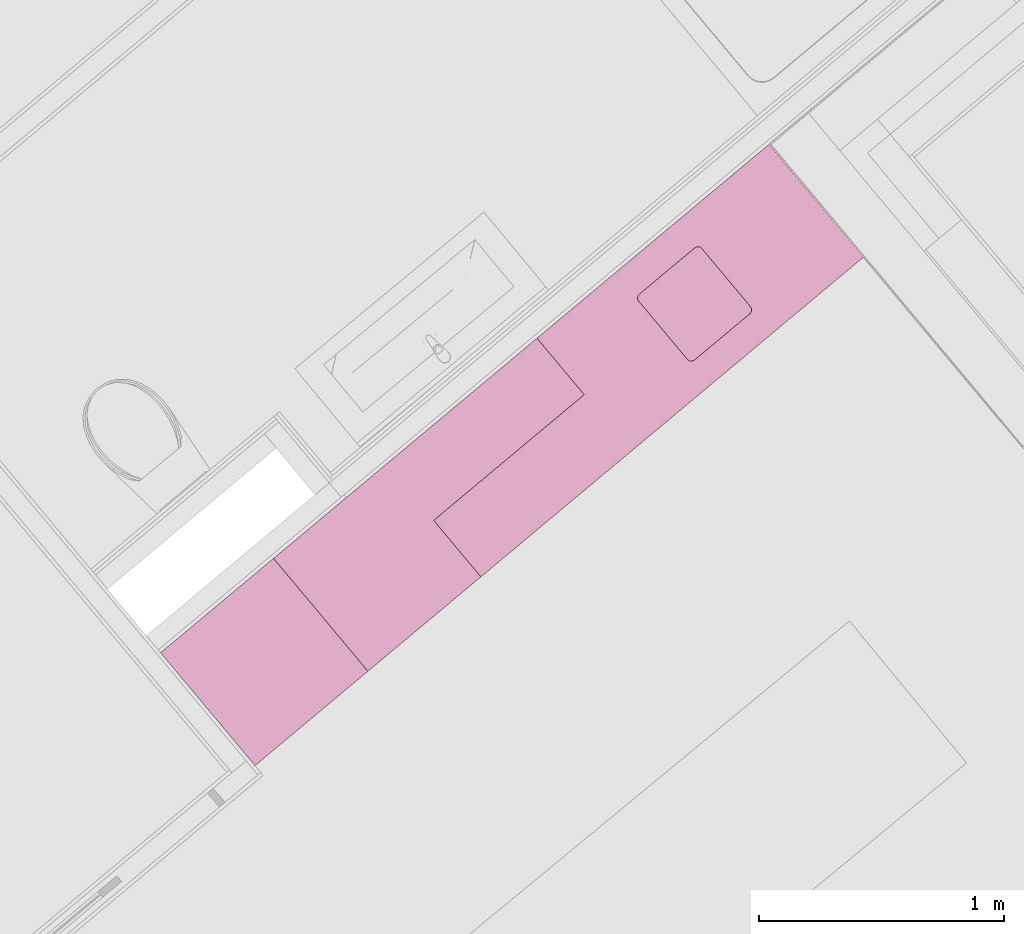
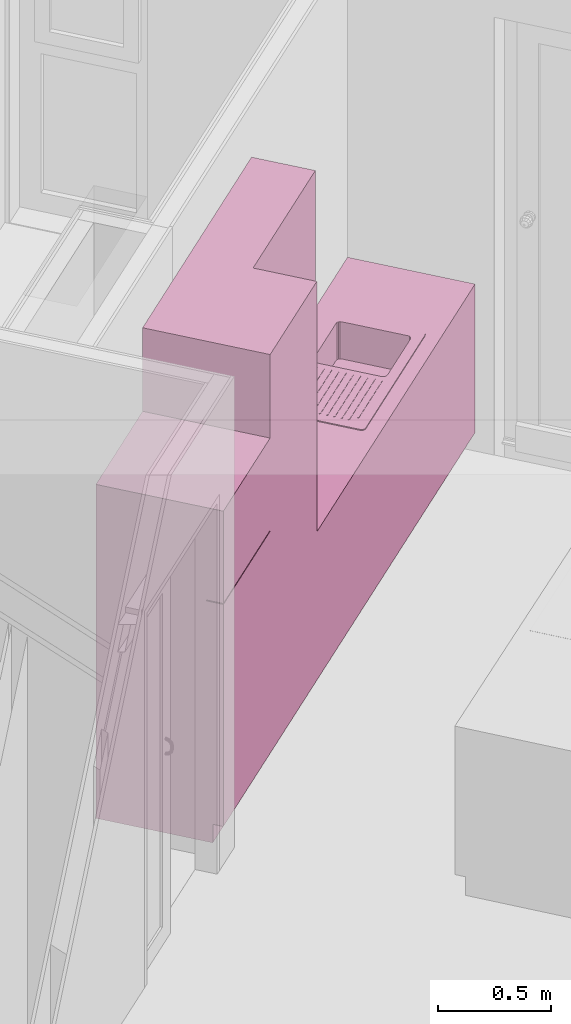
# One storey, part 52 of 53: 1 furniture element.
"""IFC4 building model written with IfcOpenShell, lengths in metres."""

from ifc_helpers import new_model, entity, si_unit, converted_unit, derived_unit, direction, frame, origin_with_axes, place, context, subcontext, project, spatial, polygons, source, transform, mapped, type_object, element, save


model = new_model("IFC4")

# Units and contexts
model_context = context("Model", 3, precision=1e-05, world=origin_with_axes(), true_north=direction((0.0, 1.0)))
body_context = subcontext(model_context, "Body", "Model", "MODEL_VIEW")
ifc_project = project(units=[si_unit("LENGTHUNIT", "METRE"), si_unit("AREAUNIT", "SQUARE_METRE"), si_unit("VOLUMEUNIT", "CUBIC_METRE"), converted_unit("PLANEANGLEUNIT", "DEGREE", entity("IfcPlaneAngleMeasure", 0.0174532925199), si_unit("PLANEANGLEUNIT", "RADIAN"), dimensions=[0, 0, 0, 0, 0, 0, 0]), converted_unit("TIMEUNIT", "Year", entity("IfcTimeMeasure", 31556926.0), si_unit("TIMEUNIT", "SECOND"), dimensions=[0, 0, 1, 0, 0, 0, 0]), si_unit("MASSUNIT", "GRAM", prefix="KILO"), si_unit("THERMODYNAMICTEMPERATUREUNIT", "DEGREE_CELSIUS"), si_unit("LUMINOUSINTENSITYUNIT", "LUMEN"), si_unit("ENERGYUNIT", "JOULE", prefix="MEGA"), derived_unit("THERMALCONDUCTANCEUNIT", [(si_unit("POWERUNIT", "WATT"), 1), (si_unit("LENGTHUNIT", "METRE"), -1), (si_unit("THERMODYNAMICTEMPERATUREUNIT", "KELVIN"), -1)]), derived_unit("SPECIFICHEATCAPACITYUNIT", [(si_unit("ENERGYUNIT", "JOULE"), 1), (si_unit("MASSUNIT", "GRAM", prefix="KILO"), -1), (si_unit("THERMODYNAMICTEMPERATUREUNIT", "KELVIN"), -1)]), derived_unit("MASSDENSITYUNIT", [(si_unit("MASSUNIT", "GRAM", prefix="KILO"), 1), (si_unit("VOLUMEUNIT", "CUBIC_METRE"), -1)])], contexts=[model_context])

# Site, building, storey, space
site_placement = place(None, frame((-0.00153261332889, -0.00661245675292, 0.0), z_axis=(0.0, 0.0, 1.0), x_axis=(1.0, 0.0, 0.0)))
site = spatial("IfcSite", under=ifc_project, at=site_placement, Name="Gelände", CompositionType="ELEMENT")
building_placement = place(site_placement, origin_with_axes())
building = spatial("IfcBuilding", under=site, at=building_placement, Name="Gebäude", CompositionType="ELEMENT")
storey_placement = place(building_placement, frame((0.0, 0.0, 2.74), z_axis=(0.0, 0.0, 1.0), x_axis=(1.0, 0.0, 0.0)))
storey = spatial("IfcBuildingStorey", under=building, at=storey_placement, Name="OG1", CompositionType="ELEMENT", Elevation=2.74)
space_placement = place(storey_placement, frame((12.8063322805, 20.3315828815, 0.22), z_axis=(0.0, 0.0, 1.0), x_axis=(-0.641209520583, 0.767365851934, 0.0)))
space = spatial("IfcSpace", under=storey, at=space_placement, CompositionType="ELEMENT", PredefinedType="NOTDEFINED")

# Furniture
furniture_type = type_object("IfcFurnitureType", Name="Konzeptküche 26", AssemblyPlace="NOTDEFINED", PredefinedType="NOTDEFINED")
shared_shape = source(origin_with_axes(), body_context, "Body", "Tessellation", [
    polygons([(-0.968323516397, 0.0, 0.0), (-0.968323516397, 0.0, 0.1), (-3.0, 0.0, 0.1), (-3.0, 0.0, 0.0), (-0.968323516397, 0.55, 0.0), (-0.968323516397, 0.55, 0.1), (-3.0, 0.55, 0.1), (-3.0, 0.55, 0.0)], [[[1, 2, 3, 4]], [[5, 6, 2, 1]], [[2, 6, 7, 3]], [[4, 3, 7, 8]], [[1, 4, 8, 5]], [[8, 7, 6, 5]]], closed=True),
    polygons([(-0.968323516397, 0.6, 0.85), (-0.968323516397, 0.0, 0.85), (-3.0, 0.0, 0.85), (-3.0, 0.6, 0.85), (-1.79253770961, 0.055, 0.85), (-1.79253770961, 0.505, 0.85), (-2.54253770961, 0.505, 0.85), (-2.54253770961, 0.055, 0.85), (-0.968323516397, 0.6, 0.9), (-0.968323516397, 0.0, 0.9), (-3.0, 0.0, 0.9), (-3.0, 0.6, 0.9), (-1.79253770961, 0.505, 0.9), (-1.79253770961, 0.055, 0.9), (-2.54253770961, 0.505, 0.9), (-2.54253770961, 0.055, 0.9)], [[[1, 2, 3, 4], [5, 6, 7, 8]], [[2, 1, 9, 10]], [[3, 2, 10, 11]], [[4, 3, 11, 12]], [[1, 4, 12, 9]], [[13, 6, 5, 14]], [[15, 7, 6, 13]], [[16, 8, 7, 15]], [[14, 5, 8, 16]], [[11, 10, 9, 12], [14, 16, 15, 13]]], closed=True),
    polygons([(-0.968323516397, 0.6, 0.1), (-0.968323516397, 0.0, 0.1), (-3.0, 0.0, 0.1), (-3.0, 0.6, 0.1), (-1.79253770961, 0.055, 0.1), (-1.79253770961, 0.505, 0.1), (-2.54253770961, 0.505, 0.1), (-2.54253770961, 0.055, 0.1), (-0.968323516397, 0.6, 0.85), (-0.968323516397, 0.0, 0.85), (-3.0, 0.0, 0.85), (-3.0, 0.6, 0.85), (-1.79253770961, 0.505, 0.85), (-1.79253770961, 0.055, 0.85), (-2.54253770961, 0.505, 0.85), (-2.54253770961, 0.055, 0.85)], [[[1, 2, 3, 4], [5, 6, 7, 8]], [[2, 1, 9, 10]], [[3, 2, 10, 11]], [[4, 3, 11, 12]], [[1, 4, 12, 9]], [[13, 6, 5, 14]], [[15, 7, 6, 13]], [[16, 8, 7, 15]], [[14, 5, 8, 16]], [[11, 10, 9, 12], [14, 16, 15, 13]]], closed=True),
    polygons([(-0.968323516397, 0.0, 1.5), (-0.968323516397, 0.0, 2.25), (-1.76753770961, 0.0, 2.25), (-1.76753770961, 0.0, 1.5), (-0.968323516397, 0.3, 1.5), (-0.968323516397, 0.3, 2.25), (-1.76753770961, 0.3, 2.25), (-1.76753770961, 0.3, 1.5)], [[[1, 2, 3, 4]], [[5, 6, 2, 1]], [[2, 6, 7, 3]], [[4, 3, 7, 8]], [[1, 4, 8, 5]], [[8, 7, 6, 5]]], closed=True),
    polygons([(-0.368323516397, 0.52, 0.0), (-0.368323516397, 0.52, 0.1), (-0.368323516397, 0.55, 0.1), (-0.368323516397, 0.55, 0.0), (0.231676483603, 0.52, 0.0), (0.231676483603, 0.52, 0.1), (0.231676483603, 0.55, 0.1), (0.231676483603, 0.55, 0.0)], [[[1, 2, 3, 4]], [[5, 6, 2, 1]], [[2, 6, 7, 3]], [[4, 3, 7, 8]], [[1, 4, 8, 5]], [[8, 7, 6, 5]]], closed=True),
    polygons([(-0.368323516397, 0.52, 0.0), (-0.368323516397, 0.52, 1.8), (0.231676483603, 0.52, 1.8), (0.231676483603, 0.52, 0.0), (-0.368323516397, 0.0, 0.0), (-0.368323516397, 0.0, 1.8), (0.231676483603, 0.0, 1.8), (0.231676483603, 0.0, 0.0)], [[[1, 2, 3, 4]], [[5, 6, 2, 1]], [[2, 6, 7, 3]], [[4, 3, 7, 8]], [[1, 4, 8, 5]], [[8, 7, 6, 5]]], closed=True),
    polygons([(-0.368323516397, 0.5199, 0.1), (-0.368323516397, 0.5199, 1.2975), (-0.368323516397, 0.6, 1.2975), (-0.368323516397, 0.6, 0.1), (0.231676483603, 0.5199, 0.1), (0.231676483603, 0.5199, 1.2975), (0.231676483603, 0.6, 1.2975), (0.231676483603, 0.6, 0.1)], [[[1, 2, 3, 4]], [[5, 6, 2, 1]], [[2, 6, 7, 3]], [[4, 3, 7, 8]], [[1, 4, 8, 5]], [[8, 7, 6, 5]]], closed=True),
    polygons([(-0.368323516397, 0.5199, 1.3025), (-0.368323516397, 0.5199, 1.8), (-0.368323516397, 0.6, 1.8), (-0.368323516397, 0.6, 1.3025), (0.231676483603, 0.5199, 1.3025), (0.231676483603, 0.5199, 1.8), (0.231676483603, 0.6, 1.8), (0.231676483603, 0.6, 1.3025)], [[[1, 2, 3, 4]], [[5, 6, 2, 1]], [[2, 6, 7, 3]], [[4, 3, 7, 8]], [[1, 4, 8, 5]], [[8, 7, 6, 5]]], closed=True),
    polygons([(-2.49753770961, 0.48, 0.705), (-2.49753770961, 0.48, 0.9), (-2.20253770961, 0.48, 0.9), (-2.20253770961, 0.48, 0.705), (-2.50519137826, 0.47847759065, 0.705), (-2.50519137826, 0.47847759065, 0.9), (-2.19488404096, 0.47847759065, 0.9), (-2.19488404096, 0.47847759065, 0.705), (-2.18839557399, 0.474142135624, 0.705), (-2.18406011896, 0.467653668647, 0.705), (-2.18253770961, 0.46, 0.705), (-2.18253770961, 0.15, 0.705), (-2.18406011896, 0.142346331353, 0.705), (-2.18839557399, 0.135857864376, 0.705), (-2.19488404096, 0.13152240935, 0.705), (-2.20253770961, 0.13, 0.705), (-2.49753770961, 0.13, 0.705), (-2.50519137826, 0.13152240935, 0.705), (-2.51167984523, 0.135857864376, 0.705), (-2.51601530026, 0.142346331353, 0.705), (-2.51753770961, 0.15, 0.705), (-2.51753770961, 0.46, 0.705), (-2.51601530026, 0.467653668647, 0.705), (-2.51167984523, 0.474142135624, 0.705), (-2.51167984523, 0.474142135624, 0.9), (-2.18839557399, 0.474142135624, 0.9), (-2.18406011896, 0.467653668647, 0.9), (-2.18253770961, 0.46, 0.9), (-2.18253770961, 0.15, 0.9), (-2.18406011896, 0.142346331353, 0.9), (-2.18839557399, 0.135857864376, 0.9), (-2.19488404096, 0.13152240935, 0.9), (-2.20253770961, 0.13, 0.9), (-2.49753770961, 0.13, 0.9), (-2.50519137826, 0.13152240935, 0.9), (-2.51167984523, 0.135857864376, 0.9), (-2.51601530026, 0.142346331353, 0.9), (-2.51753770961, 0.15, 0.9), (-2.51753770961, 0.46, 0.9), (-2.51601530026, 0.467653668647, 0.9)], [[[1, 2, 3, 4]], [[5, 6, 2, 1]], [[4, 3, 7, 8]], [[1, 4, 8, 9, 10, 11, 12, 13, 14, 15, 16, 17, 18, 19, 20, 21, 22, 23, 24, 5]], [[24, 25, 6, 5]], [[8, 7, 26, 9]], [[9, 26, 27, 10]], [[10, 27, 28, 11]], [[11, 28, 29, 12]], [[12, 29, 30, 13]], [[13, 30, 31, 14]], [[14, 31, 32, 15]], [[15, 32, 33, 16]], [[16, 33, 34, 17]], [[17, 34, 35, 18]], [[18, 35, 36, 19]], [[19, 36, 37, 20]], [[20, 37, 38, 21]], [[21, 38, 39, 22]], [[22, 39, 40, 23]], [[23, 40, 25, 24]]], closed=False),
    polygons([(-2.54753770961, 0.53, 0.9), (-2.54753770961, 0.53, 0.905), (-1.78753770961, 0.53, 0.905), (-1.78753770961, 0.53, 0.9), (-2.55519137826, 0.52847759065, 0.9), (-2.55519137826, 0.52847759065, 0.905), (-2.56167984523, 0.524142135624, 0.905), (-2.56601530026, 0.517653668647, 0.905), (-2.56753770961, 0.51, 0.905), (-2.56753770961, 0.05, 0.905), (-2.56601530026, 0.0423463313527, 0.905), (-2.56167984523, 0.0358578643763, 0.905), (-2.55519137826, 0.0315224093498, 0.905), (-2.54753770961, 0.03, 0.905), (-1.78753770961, 0.03, 0.905), (-1.77988404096, 0.0315224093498, 0.905), (-1.77339557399, 0.0358578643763, 0.905), (-1.76906011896, 0.0423463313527, 0.905), (-1.76753770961, 0.05, 0.905), (-1.76753770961, 0.51, 0.905), (-1.76906011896, 0.517653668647, 0.905), (-1.77339557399, 0.524142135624, 0.905), (-1.77988404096, 0.52847759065, 0.905), (-2.49753770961, 0.48, 0.905), (-2.20253770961, 0.48, 0.905), (-2.19488404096, 0.47847759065, 0.905), (-2.18839557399, 0.474142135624, 0.905), (-2.18406011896, 0.467653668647, 0.905), (-2.18253770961, 0.46, 0.905), (-2.18253770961, 0.15, 0.905), (-2.18406011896, 0.142346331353, 0.905), (-2.18839557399, 0.135857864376, 0.905), (-2.19488404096, 0.13152240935, 0.905), (-2.20253770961, 0.13, 0.905), (-2.49753770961, 0.13, 0.905), (-2.50519137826, 0.13152240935, 0.905), (-2.51167984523, 0.135857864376, 0.905), (-2.51601530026, 0.142346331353, 0.905), (-2.51753770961, 0.15, 0.905), (-2.51753770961, 0.46, 0.905), (-2.51601530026, 0.467653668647, 0.905), (-2.51167984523, 0.474142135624, 0.905), (-2.50519137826, 0.47847759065, 0.905), (-1.77988404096, 0.52847759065, 0.9), (-1.77339557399, 0.524142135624, 0.9), (-1.76906011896, 0.517653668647, 0.9), (-1.76753770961, 0.51, 0.9), (-1.76753770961, 0.05, 0.9), (-1.76906011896, 0.0423463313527, 0.9), (-1.77339557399, 0.0358578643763, 0.9), (-1.77988404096, 0.0315224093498, 0.9), (-1.78753770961, 0.03, 0.9), (-2.54753770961, 0.03, 0.9), (-2.55519137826, 0.0315224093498, 0.9), (-2.56167984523, 0.0358578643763, 0.9), (-2.56601530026, 0.0423463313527, 0.9), (-2.56753770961, 0.05, 0.9), (-2.56753770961, 0.51, 0.9), (-2.56601530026, 0.517653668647, 0.9), (-2.56167984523, 0.524142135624, 0.9), (-2.49753770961, 0.48, 0.9), (-2.50519137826, 0.47847759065, 0.9), (-2.51167984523, 0.474142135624, 0.9), (-2.51601530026, 0.467653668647, 0.9), (-2.51753770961, 0.46, 0.9), (-2.51753770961, 0.15, 0.9), (-2.51601530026, 0.142346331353, 0.9), (-2.51167984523, 0.135857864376, 0.9), (-2.50519137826, 0.13152240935, 0.9), (-2.49753770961, 0.13, 0.9), (-2.20253770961, 0.13, 0.9), (-2.19488404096, 0.13152240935, 0.9), (-2.18839557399, 0.135857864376, 0.9), (-2.18406011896, 0.142346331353, 0.9), (-2.18253770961, 0.15, 0.9), (-2.18253770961, 0.46, 0.9), (-2.18406011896, 0.467653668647, 0.9), (-2.18839557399, 0.474142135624, 0.9), (-2.19488404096, 0.47847759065, 0.9), (-2.20253770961, 0.48, 0.9)], [[[1, 2, 3, 4]], [[5, 6, 2, 1]], [[2, 6, 7, 8, 9, 10, 11, 12, 13, 14, 15, 16, 17, 18, 19, 20, 21, 22, 23, 3], [24, 25, 26, 27, 28, 29, 30, 31, 32, 33, 34, 35, 36, 37, 38, 39, 40, 41, 42, 43]], [[4, 3, 23, 44]], [[1, 4, 44, 45, 46, 47, 48, 49, 50, 51, 52, 53, 54, 55, 56, 57, 58, 59, 60, 5], [61, 62, 63, 64, 65, 66, 67, 68, 69, 70, 71, 72, 73, 74, 75, 76, 77, 78, 79, 80]], [[60, 7, 6, 5]], [[59, 8, 7, 60]], [[58, 9, 8, 59]], [[57, 10, 9, 58]], [[56, 11, 10, 57]], [[55, 12, 11, 56]], [[54, 13, 12, 55]], [[53, 14, 13, 54]], [[52, 15, 14, 53]], [[51, 16, 15, 52]], [[50, 17, 16, 51]], [[49, 18, 17, 50]], [[48, 19, 18, 49]], [[47, 20, 19, 48]], [[46, 21, 20, 47]], [[45, 22, 21, 46]], [[44, 23, 22, 45]], [[80, 25, 24, 61]], [[79, 26, 25, 80]], [[78, 27, 26, 79]], [[77, 28, 27, 78]], [[76, 29, 28, 77]], [[75, 30, 29, 76]], [[74, 31, 30, 75]], [[73, 32, 31, 74]], [[72, 33, 32, 73]], [[71, 34, 33, 72]], [[70, 35, 34, 71]], [[69, 36, 35, 70]], [[68, 37, 36, 69]], [[67, 38, 37, 68]], [[66, 39, 38, 67]], [[65, 40, 39, 66]], [[64, 41, 40, 65]], [[63, 42, 41, 64]], [[62, 43, 42, 63]], [[61, 24, 43, 62]]], closed=True),
    polygons([(-2.15253770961, 0.475, 0.905), (-2.15253770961, 0.475, 0.907), (-1.84753770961, 0.475, 0.907), (-1.84753770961, 0.475, 0.905), (-2.15253770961, 0.47, 0.905), (-2.15253770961, 0.47, 0.907), (-1.84753770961, 0.47, 0.907), (-1.84753770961, 0.47, 0.905)], [[[1, 2, 3, 4]], [[5, 6, 2, 1]], [[2, 6, 7, 3]], [[4, 3, 7, 8]], [[1, 4, 8, 5]], [[8, 7, 6, 5]]], closed=True),
    polygons([(-2.15253770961, 0.441, 0.905), (-2.15253770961, 0.441, 0.907), (-1.81753770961, 0.441, 0.907), (-1.81753770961, 0.441, 0.905), (-2.15253770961, 0.436, 0.905), (-2.15253770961, 0.436, 0.907), (-1.81753770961, 0.436, 0.907), (-1.81753770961, 0.436, 0.905)], [[[1, 2, 3, 4]], [[5, 6, 2, 1]], [[2, 6, 7, 3]], [[4, 3, 7, 8]], [[1, 4, 8, 5]], [[8, 7, 6, 5]]], closed=True),
    polygons([(-2.15253770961, 0.407, 0.905), (-2.15253770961, 0.407, 0.907), (-1.81753770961, 0.407, 0.907), (-1.81753770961, 0.407, 0.905), (-2.15253770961, 0.402, 0.905), (-2.15253770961, 0.402, 0.907), (-1.81753770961, 0.402, 0.907), (-1.81753770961, 0.402, 0.905)], [[[1, 2, 3, 4]], [[5, 6, 2, 1]], [[2, 6, 7, 3]], [[4, 3, 7, 8]], [[1, 4, 8, 5]], [[8, 7, 6, 5]]], closed=True),
    polygons([(-2.15253770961, 0.373, 0.905), (-2.15253770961, 0.373, 0.907), (-1.81753770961, 0.373, 0.907), (-1.81753770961, 0.373, 0.905), (-2.15253770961, 0.368, 0.905), (-2.15253770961, 0.368, 0.907), (-1.81753770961, 0.368, 0.907), (-1.81753770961, 0.368, 0.905)], [[[1, 2, 3, 4]], [[5, 6, 2, 1]], [[2, 6, 7, 3]], [[4, 3, 7, 8]], [[1, 4, 8, 5]], [[8, 7, 6, 5]]], closed=True),
    polygons([(-2.15253770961, 0.339, 0.905), (-2.15253770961, 0.339, 0.907), (-1.81753770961, 0.339, 0.907), (-1.81753770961, 0.339, 0.905), (-2.15253770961, 0.334, 0.905), (-2.15253770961, 0.334, 0.907), (-1.81753770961, 0.334, 0.907), (-1.81753770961, 0.334, 0.905)], [[[1, 2, 3, 4]], [[5, 6, 2, 1]], [[2, 6, 7, 3]], [[4, 3, 7, 8]], [[1, 4, 8, 5]], [[8, 7, 6, 5]]], closed=True),
    polygons([(-2.15253770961, 0.305, 0.905), (-2.15253770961, 0.305, 0.907), (-1.81753770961, 0.305, 0.907), (-1.81753770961, 0.305, 0.905), (-2.15253770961, 0.3, 0.905), (-2.15253770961, 0.3, 0.907), (-1.81753770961, 0.3, 0.907), (-1.81753770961, 0.3, 0.905)], [[[1, 2, 3, 4]], [[5, 6, 2, 1]], [[2, 6, 7, 3]], [[4, 3, 7, 8]], [[1, 4, 8, 5]], [[8, 7, 6, 5]]], closed=True),
    polygons([(-2.15253770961, 0.271, 0.905), (-2.15253770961, 0.271, 0.907), (-1.81753770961, 0.271, 0.907), (-1.81753770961, 0.271, 0.905), (-2.15253770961, 0.266, 0.905), (-2.15253770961, 0.266, 0.907), (-1.81753770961, 0.266, 0.907), (-1.81753770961, 0.266, 0.905)], [[[1, 2, 3, 4]], [[5, 6, 2, 1]], [[2, 6, 7, 3]], [[4, 3, 7, 8]], [[1, 4, 8, 5]], [[8, 7, 6, 5]]], closed=True),
    polygons([(-2.15253770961, 0.237, 0.905), (-2.15253770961, 0.237, 0.907), (-1.81753770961, 0.237, 0.907), (-1.81753770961, 0.237, 0.905), (-2.15253770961, 0.232, 0.905), (-2.15253770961, 0.232, 0.907), (-1.81753770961, 0.232, 0.907), (-1.81753770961, 0.232, 0.905)], [[[1, 2, 3, 4]], [[5, 6, 2, 1]], [[2, 6, 7, 3]], [[4, 3, 7, 8]], [[1, 4, 8, 5]], [[8, 7, 6, 5]]], closed=True),
    polygons([(-2.15253770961, 0.203, 0.905), (-2.15253770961, 0.203, 0.907), (-1.81753770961, 0.203, 0.907), (-1.81753770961, 0.203, 0.905), (-2.15253770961, 0.198, 0.905), (-2.15253770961, 0.198, 0.907), (-1.81753770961, 0.198, 0.907), (-1.81753770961, 0.198, 0.905)], [[[1, 2, 3, 4]], [[5, 6, 2, 1]], [[2, 6, 7, 3]], [[4, 3, 7, 8]], [[1, 4, 8, 5]], [[8, 7, 6, 5]]], closed=True),
    polygons([(-2.15253770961, 0.169, 0.905), (-2.15253770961, 0.169, 0.907), (-1.81753770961, 0.169, 0.907), (-1.81753770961, 0.169, 0.905), (-2.15253770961, 0.164, 0.905), (-2.15253770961, 0.164, 0.907), (-1.81753770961, 0.164, 0.907), (-1.81753770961, 0.164, 0.905)], [[[1, 2, 3, 4]], [[5, 6, 2, 1]], [[2, 6, 7, 3]], [[4, 3, 7, 8]], [[1, 4, 8, 5]], [[8, 7, 6, 5]]], closed=True),
    polygons([(-2.15253770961, 0.135, 0.905), (-2.15253770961, 0.135, 0.907), (-1.84753770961, 0.135, 0.907), (-1.84753770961, 0.135, 0.905), (-2.15253770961, 0.13, 0.905), (-2.15253770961, 0.13, 0.907), (-1.84753770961, 0.13, 0.907), (-1.84753770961, 0.13, 0.905)], [[[1, 2, 3, 4]], [[5, 6, 2, 1]], [[2, 6, 7, 3]], [[4, 3, 7, 8]], [[1, 4, 8, 5]], [[8, 7, 6, 5]]], closed=True),
    polygons([(-0.968323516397, 0.55, 0.0), (-0.968323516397, 0.55, 0.1), (-0.368323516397, 0.55, 0.1), (-0.368323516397, 0.55, 0.0), (-0.968323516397, 0.0, 0.0), (-0.968323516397, 0.0, 0.1), (-0.368323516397, 0.0, 0.1), (-0.368323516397, 0.0, 0.0)], [[[1, 2, 3, 4]], [[5, 6, 2, 1]], [[2, 6, 7, 3]], [[4, 3, 7, 8]], [[1, 4, 8, 5]], [[8, 7, 6, 5]]], closed=True),
    polygons([(-0.968323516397, 0.6, 0.1), (-0.968323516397, 0.6, 2.25), (-0.368323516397, 0.6, 2.25), (-0.368323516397, 0.6, 0.1), (-0.968323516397, 0.0, 0.1), (-0.968323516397, 0.0, 2.25), (-0.368323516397, 0.0, 2.25), (-0.368323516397, 0.0, 0.1)], [[[1, 2, 3, 4]], [[5, 6, 2, 1]], [[2, 6, 7, 3]], [[4, 3, 7, 8]], [[1, 4, 8, 5]], [[8, 7, 6, 5]]], closed=True),
])
furniture_placement = place(space_placement, frame((6.10980259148, 2.99999999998, 0.0), z_axis=(0.0, 0.0, 1.0), x_axis=(0.0, 1.0, 0.0)))
element("IfcFurniture", 1, at=furniture_placement, inside=space, type_object=furniture_type, Name="Objekt-0002", PredefinedType="NOTDEFINED", context=body_context, shape_type="MappedRepresentation", body=[
    mapped(shared_shape, transform((0.0, 0.0, 0.0))),
])

save(model, "model.ifc")
